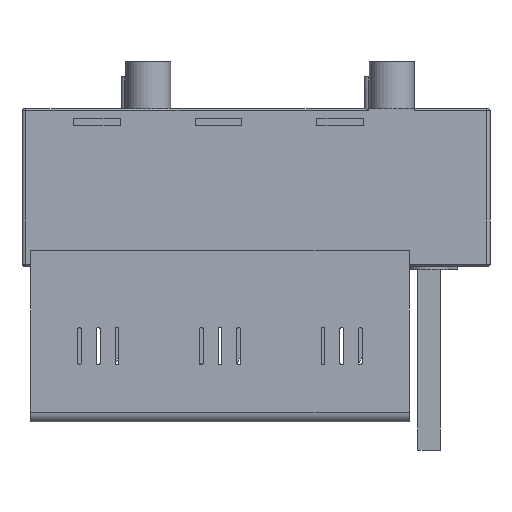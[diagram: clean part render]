
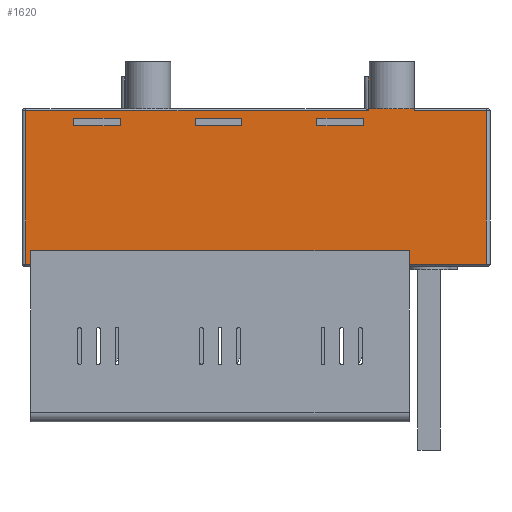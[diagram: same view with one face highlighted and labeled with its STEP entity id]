
A CAD part, front view. The second image highlights one B-rep face of the part: STEP entity #1620.
In plain terms, the highlighted planar face has unit normal (0, -1, 0).
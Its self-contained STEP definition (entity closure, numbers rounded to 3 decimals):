
#312=FACE_BOUND('',#4284,.T.);
#313=FACE_BOUND('',#4285,.T.);
#314=FACE_BOUND('',#4286,.T.);
#315=FACE_BOUND('',#4287,.T.);
#1620=ADVANCED_FACE('',(#312,#313,#314,#315),#2254,.T.);
#2254=PLANE('',#20202);
#4284=EDGE_LOOP('',(#10120,#10121,#10122,#10123));
#4285=EDGE_LOOP('',(#10124,#10125,#10126,#10127));
#4286=EDGE_LOOP('',(#10128,#10129,#10130,#10131,#10132,#10133,#10134,#10135,
#10136,#10137));
#4287=EDGE_LOOP('',(#10138,#10139,#10140,#10141));
#10120=ORIENTED_EDGE('',*,*,#14388,.F.);
#10121=ORIENTED_EDGE('',*,*,#14384,.T.);
#10122=ORIENTED_EDGE('',*,*,#14387,.F.);
#10123=ORIENTED_EDGE('',*,*,#14382,.F.);
#10124=ORIENTED_EDGE('',*,*,#14412,.F.);
#10125=ORIENTED_EDGE('',*,*,#14408,.T.);
#10126=ORIENTED_EDGE('',*,*,#14411,.F.);
#10127=ORIENTED_EDGE('',*,*,#14406,.F.);
#10128=ORIENTED_EDGE('',*,*,#14575,.T.);
#10129=ORIENTED_EDGE('',*,*,#14482,.T.);
#10130=ORIENTED_EDGE('',*,*,#14511,.F.);
#10131=ORIENTED_EDGE('',*,*,#14501,.T.);
#10132=ORIENTED_EDGE('',*,*,#14510,.T.);
#10133=ORIENTED_EDGE('',*,*,#14463,.T.);
#10134=ORIENTED_EDGE('',*,*,#14633,.T.);
#10135=ORIENTED_EDGE('',*,*,#14626,.F.);
#10136=ORIENTED_EDGE('',*,*,#14564,.F.);
#10137=ORIENTED_EDGE('',*,*,#14644,.T.);
#10138=ORIENTED_EDGE('',*,*,#14433,.F.);
#10139=ORIENTED_EDGE('',*,*,#14436,.T.);
#10140=ORIENTED_EDGE('',*,*,#14429,.T.);
#10141=ORIENTED_EDGE('',*,*,#14435,.T.);
#11835=VERTEX_POINT('',#30251);
#11836=VERTEX_POINT('',#30253);
#11837=VERTEX_POINT('',#30257);
#11838=VERTEX_POINT('',#30258);
#11851=VERTEX_POINT('',#30301);
#11852=VERTEX_POINT('',#30303);
#11853=VERTEX_POINT('',#30307);
#11854=VERTEX_POINT('',#30308);
#11867=VERTEX_POINT('',#30351);
#11868=VERTEX_POINT('',#30352);
#11869=VERTEX_POINT('',#30357);
#11870=VERTEX_POINT('',#30359);
#11888=VERTEX_POINT('',#30414);
#11889=VERTEX_POINT('',#30434);
#11899=VERTEX_POINT('',#30473);
#11902=VERTEX_POINT('',#30491);
#11911=VERTEX_POINT('',#30518);
#11915=VERTEX_POINT('',#30560);
#11963=VERTEX_POINT('',#30705);
#11964=VERTEX_POINT('',#30707);
#11969=VERTEX_POINT('',#30723);
#12005=VERTEX_POINT('',#30828);
#14382=EDGE_CURVE('',#11835,#11836,#16435,.T.);
#14384=EDGE_CURVE('',#11837,#11838,#16437,.T.);
#14387=EDGE_CURVE('',#11836,#11838,#16440,.T.);
#14388=EDGE_CURVE('',#11837,#11835,#16441,.T.);
#14406=EDGE_CURVE('',#11851,#11852,#16459,.T.);
#14408=EDGE_CURVE('',#11853,#11854,#16461,.T.);
#14411=EDGE_CURVE('',#11852,#11854,#16464,.T.);
#14412=EDGE_CURVE('',#11853,#11851,#16465,.T.);
#14429=EDGE_CURVE('',#11867,#11868,#16482,.T.);
#14433=EDGE_CURVE('',#11869,#11870,#16486,.T.);
#14435=EDGE_CURVE('',#11868,#11870,#16488,.T.);
#14436=EDGE_CURVE('',#11869,#11867,#16489,.T.);
#14463=EDGE_CURVE('',#11888,#11889,#16506,.T.);
#14482=EDGE_CURVE('',#11902,#11899,#16515,.T.);
#14501=EDGE_CURVE('',#11915,#11911,#16521,.T.);
#14510=EDGE_CURVE('',#11911,#11888,#16526,.T.);
#14511=EDGE_CURVE('',#11915,#11899,#16527,.T.);
#14564=EDGE_CURVE('',#11963,#11964,#16549,.T.);
#14575=EDGE_CURVE('',#11969,#11902,#16556,.T.);
#14626=EDGE_CURVE('',#11964,#12005,#16588,.T.);
#14633=EDGE_CURVE('',#11889,#12005,#16594,.T.);
#14644=EDGE_CURVE('',#11963,#11969,#16604,.T.);
#16435=LINE('',#30252,#18395);
#16437=LINE('',#30256,#18397);
#16440=LINE('',#30262,#18400);
#16441=LINE('',#30264,#18401);
#16459=LINE('',#30302,#18419);
#16461=LINE('',#30306,#18421);
#16464=LINE('',#30312,#18424);
#16465=LINE('',#30314,#18425);
#16482=LINE('',#30350,#18442);
#16486=LINE('',#30358,#18446);
#16488=LINE('',#30362,#18448);
#16489=LINE('',#30364,#18449);
#16506=LINE('',#30436,#18466);
#16515=LINE('',#30494,#18475);
#16521=LINE('',#30563,#18481);
#16526=LINE('',#30580,#18486);
#16527=LINE('',#30582,#18487);
#16549=LINE('',#30706,#18509);
#16556=LINE('',#30727,#18516);
#16588=LINE('',#30827,#18548);
#16594=LINE('',#30839,#18554);
#16604=LINE('',#30859,#18564);
#18395=VECTOR('',#24859,1.);
#18397=VECTOR('',#24863,1.);
#18400=VECTOR('',#24868,1.);
#18401=VECTOR('',#24871,1.);
#18419=VECTOR('',#24903,1.);
#18421=VECTOR('',#24907,1.);
#18424=VECTOR('',#24912,1.);
#18425=VECTOR('',#24915,1.);
#18442=VECTOR('',#24946,1.);
#18446=VECTOR('',#24952,1.);
#18448=VECTOR('',#24956,1.);
#18449=VECTOR('',#24959,1.);
#18466=VECTOR('',#25014,1.);
#18475=VECTOR('',#25049,1.);
#18481=VECTOR('',#25089,1.);
#18486=VECTOR('',#25112,1.);
#18487=VECTOR('',#25115,1.);
#18509=VECTOR('',#25253,1.);
#18516=VECTOR('',#25274,1.);
#18548=VECTOR('',#25374,1.);
#18554=VECTOR('',#25386,1.);
#18564=VECTOR('',#25408,1.);
#20202=AXIS2_PLACEMENT_3D('',#30870,#25426,#25427);
#24859=DIRECTION('',(1.,0.,0.));
#24863=DIRECTION('',(1.,0.,0.));
#24868=DIRECTION('',(0.,0.,1.));
#24871=DIRECTION('',(0.,0.,-1.));
#24903=DIRECTION('',(1.,0.,0.));
#24907=DIRECTION('',(1.,0.,0.));
#24912=DIRECTION('',(0.,0.,1.));
#24915=DIRECTION('',(0.,0.,-1.));
#24946=DIRECTION('',(-1.,0.,0.));
#24952=DIRECTION('',(-1.,0.,0.));
#24956=DIRECTION('',(0.,0.,1.));
#24959=DIRECTION('',(0.,0.,-1.));
#25014=DIRECTION('',(-1.,0.,0.));
#25049=DIRECTION('',(-1.,0.,0.));
#25089=DIRECTION('',(1.,0.,0.));
#25112=DIRECTION('',(0.,0.,1.));
#25115=DIRECTION('',(0.,0.,1.));
#25253=DIRECTION('',(0.,0.,-1.));
#25274=DIRECTION('',(0.,0.,-1.));
#25374=DIRECTION('',(1.,0.,0.));
#25386=DIRECTION('',(0.,0.,1.));
#25408=DIRECTION('',(-1.,0.,0.));
#25426=DIRECTION('',(0.,-1.,0.));
#25427=DIRECTION('',(1.,0.,0.));
#30251=CARTESIAN_POINT('',(-105.,-52.5,-9.));
#30252=CARTESIAN_POINT('',(-12.,-52.5,-9.));
#30253=CARTESIAN_POINT('',(-80.,-52.5,-9.));
#30256=CARTESIAN_POINT('',(-12.,-52.5,-5.));
#30257=CARTESIAN_POINT('',(-105.,-52.5,-5.));
#30258=CARTESIAN_POINT('',(-80.,-52.5,-5.));
#30262=CARTESIAN_POINT('',(-80.,-52.5,4.));
#30264=CARTESIAN_POINT('',(-105.,-52.5,4.));
#30301=CARTESIAN_POINT('',(-170.,-52.5,-9.));
#30302=CARTESIAN_POINT('',(-12.,-52.5,-9.));
#30303=CARTESIAN_POINT('',(-145.,-52.5,-9.));
#30306=CARTESIAN_POINT('',(-12.,-52.5,-5.));
#30307=CARTESIAN_POINT('',(-170.,-52.5,-5.));
#30308=CARTESIAN_POINT('',(-145.,-52.5,-5.));
#30312=CARTESIAN_POINT('',(-145.,-52.5,4.));
#30314=CARTESIAN_POINT('',(-170.,-52.5,4.));
#30350=CARTESIAN_POINT('',(-12.,-52.5,-9.));
#30351=CARTESIAN_POINT('',(-15.,-52.5,-9.));
#30352=CARTESIAN_POINT('',(-40.,-52.5,-9.));
#30357=CARTESIAN_POINT('',(-15.,-52.5,-5.));
#30358=CARTESIAN_POINT('',(-12.,-52.5,-5.));
#30359=CARTESIAN_POINT('',(-40.,-52.5,-5.));
#30362=CARTESIAN_POINT('',(-40.,-52.5,4.));
#30364=CARTESIAN_POINT('',(-15.,-52.5,4.));
#30414=CARTESIAN_POINT('',(50.5,-52.5,-1.));
#30434=CARTESIAN_POINT('',(12.,-52.5,-1.));
#30436=CARTESIAN_POINT('',(12.,-52.5,-1.));
#30473=CARTESIAN_POINT('',(-195.5,-52.5,-1.));
#30491=CARTESIAN_POINT('',(-12.5,-52.5,-1.));
#30494=CARTESIAN_POINT('',(-195.5,-52.5,-1.));
#30518=CARTESIAN_POINT('',(50.5,-52.5,-83.));
#30560=CARTESIAN_POINT('',(-195.5,-52.5,-83.));
#30563=CARTESIAN_POINT('',(-12.,-52.5,-83.));
#30580=CARTESIAN_POINT('',(50.5,-52.5,-84.));
#30582=CARTESIAN_POINT('',(-195.5,-52.5,-84.));
#30705=CARTESIAN_POINT('',(-12.,-52.5,17.));
#30706=CARTESIAN_POINT('',(-12.,-52.5,25.));
#30707=CARTESIAN_POINT('',(-12.,-52.5,0.));
#30723=CARTESIAN_POINT('',(-12.5,-52.5,17.));
#30727=CARTESIAN_POINT('',(-12.5,-52.5,4.));
#30827=CARTESIAN_POINT('',(50.5,-52.5,0.));
#30828=CARTESIAN_POINT('',(12.,-52.5,0.));
#30839=CARTESIAN_POINT('',(12.,-52.5,4.));
#30859=CARTESIAN_POINT('',(7.5,-52.5,17.));
#30870=CARTESIAN_POINT('',(-12.,-52.5,4.));
